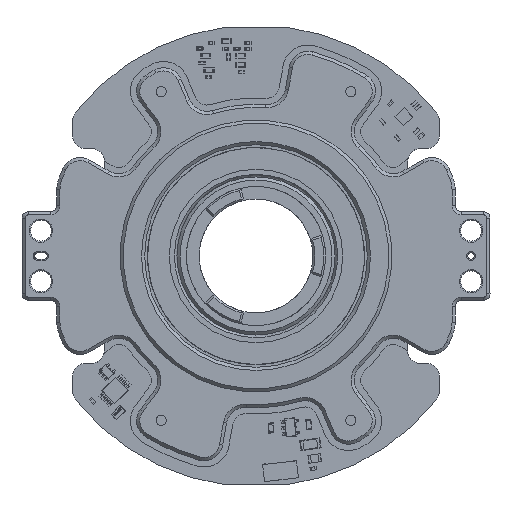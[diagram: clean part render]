
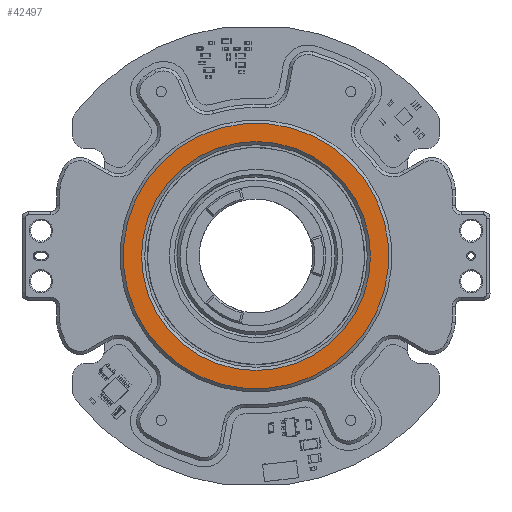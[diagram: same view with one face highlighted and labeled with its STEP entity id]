
A CAD part, front view. The second image highlights one B-rep face of the part: STEP entity #42497.
In plain terms, the highlighted planar face has unit normal (0, -1, 0).
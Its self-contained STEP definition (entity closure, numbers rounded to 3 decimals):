
#36488=PLANE('',#114914);
#42497=ADVANCED_FACE('',(#48791,#48792),#36488,.T.);
#48791=FACE_BOUND('',#49694,.T.);
#48792=FACE_BOUND('',#49695,.T.);
#49694=EDGE_LOOP('',(#57637));
#49695=EDGE_LOOP('',(#57638));
#57637=ORIENTED_EDGE('',*,*,#97270,.T.);
#57638=ORIENTED_EDGE('',*,*,#97271,.T.);
#87153=VERTEX_POINT('',#159516);
#87154=VERTEX_POINT('',#159518);
#97270=EDGE_CURVE('',#87153,#87153,#111952,.T.);
#97271=EDGE_CURVE('',#87154,#87154,#111953,.T.);
#111952=CIRCLE('',#114912,21.);
#111953=CIRCLE('',#114913,18.1);
#114912=AXIS2_PLACEMENT_3D('',#159515,#125119,#125120);
#114913=AXIS2_PLACEMENT_3D('',#159517,#125121,#125122);
#114914=AXIS2_PLACEMENT_3D('',#159519,#125123,#125124);
#125119=DIRECTION('',(0.,-1.,0.));
#125120=DIRECTION('',(0.707,0.,-0.707));
#125121=DIRECTION('',(0.,1.,0.));
#125122=DIRECTION('',(0.,0.,-1.));
#125123=DIRECTION('',(0.,-1.,0.));
#125124=DIRECTION('',(-0.707,0.,0.707));
#159515=CARTESIAN_POINT('',(0.,-7.5,0.));
#159516=CARTESIAN_POINT('',(14.849,-7.5,-14.849));
#159517=CARTESIAN_POINT('',(0.,-7.5,0.));
#159518=CARTESIAN_POINT('',(0.,-7.5,-18.1));
#159519=CARTESIAN_POINT('',(0.,-7.5,0.));
